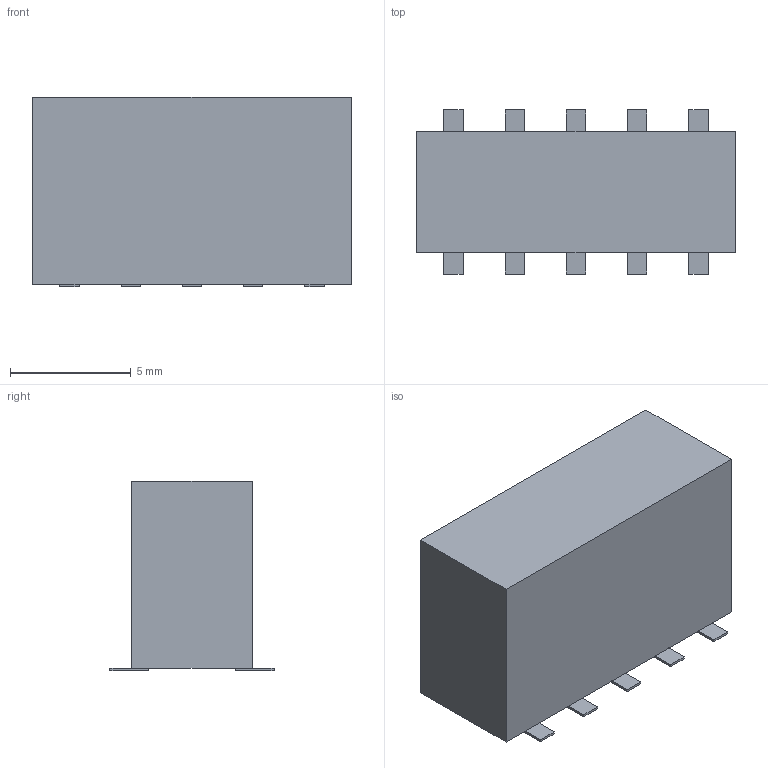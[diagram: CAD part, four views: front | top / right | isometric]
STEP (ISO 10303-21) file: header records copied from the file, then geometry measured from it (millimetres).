
FILE_DESCRIPTION(('FreeCAD Model'),'2;1');
FILE_NAME('/var/www/3D/0T/1828845.1.1.stp','2022-07-15T09:23:55',( 'Author'),(''),'Open CASCADE STEP processor 6.9','FreeCAD','Unknown' );
FILE_SCHEMA(('AUTOMOTIVE_DESIGN { 1 0 10303 214 1 1 1 1 }'));
Length unit declared in the file: millimetre
Products named in the file (3): ASSEMBLY; Body; Pins
Assembly tree (2 placements, depth 2):
  ASSEMBLY
    Body
    Pins
Bounding box: 13.2 x 6.8 x 7.85 mm (x, y, z)
Volume: 512.8 mm3; surface area: 444.5 mm2
Topology: 11 solids, 11 shells, 66 faces, 132 edges, 88 vertices
Faces by surface type: plane 66
Entity records: 3521 total; most frequent: CARTESIAN_POINT 553, DIRECTION 534, LINE 396, VECTOR 396, ORIENTED_EDGE 264, PCURVE 264, DEFINITIONAL_REPRESENTATION 264, EDGE_CURVE 132
